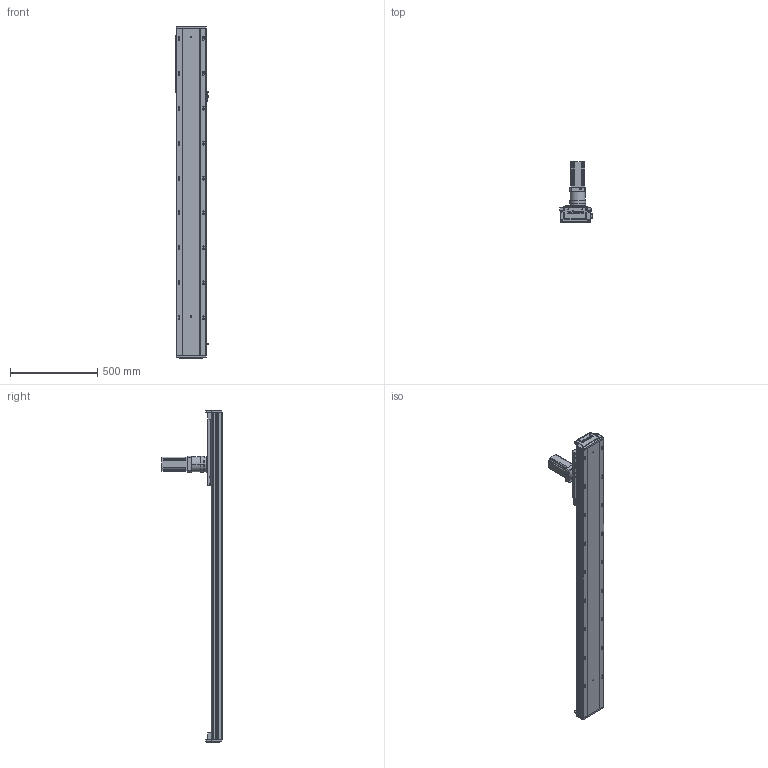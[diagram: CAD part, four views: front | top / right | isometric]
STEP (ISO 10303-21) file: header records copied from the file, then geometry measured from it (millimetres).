
FILE_DESCRIPTION (( 'STEP AP203' ), '1' );
FILE_NAME ('RY170-C-1000-UK.SLDASM_1400.step', '2021-03-03T00:46:36', ( '盈信电脑' ), ( '东莞市道滘镇水果街19号' ), 'SwSTEP 2.0', 'SolidWorks 2012', '' );
FILE_SCHEMA (( 'CONFIG_CONTROL_DESIGN' ));
Length unit declared in the file: millimetre
Products named in the file (13): RY170綴裔啣ㄗ蜊秶ㄘ; 絳寢賑輸EGH20CA; RY170-1000-喘沭耀郪絳寢EGH20CA_1400; RY170-1000齿条模组型材底座_1400; 怢湛750W萇儂ㄗ80遺ㄘ; RY170外置感应片(200共用）; RY170-喘謫萇儂覃誹啣; 覜茼ん672; 左旋斜齿齿轮_M2_22齿_内孔20; RY170-C-1000-UK.SLDASM_1400; RY170-喘沭賑輸; TF080等撰; RY170-喘沭滅袉蝶輸
Assembly tree (22 placements, depth 2):
  RY170-C-1000-UK.SLDASM_1400
    RY170-1000齿条模组型材底座_1400
    絳寢賑輸EGH20CA  x6
    RY170-1000-喘沭耀郪絳寢EGH20CA_1400  x2
    RY170綴裔啣ㄗ蜊秶ㄘ  x2
    覜茼ん672  x3
    RY170外置感应片(200共用）
    RY170-喘謫萇儂覃誹啣
    怢湛750W萇儂ㄗ80遺ㄘ
    RY170-喘沭滅袉蝶輸  x2
    TF080等撰
    左旋斜齿齿轮_M2_22齿_内孔20
    RY170-喘沭賑輸
Bounding box: 188.7 x 343.5 x 1900 mm (x, y, z)
Volume: 11142914.9 mm3; surface area: 2700856.5 mm2
Topology: 24 solids, 24 shells, 4035 faces, 11150 edges, 7171 vertices
Faces by surface type: plane 2013, cylinder 1690, cone 278, bspline 50, torus 4
Entity records: 87516 total; most frequent: CARTESIAN_POINT 19697, ORIENTED_EDGE 14014, DIRECTION 13744, EDGE_CURVE 7007, AXIS2_PLACEMENT_3D 5021, VERTEX_POINT 4561, LINE 3702, VECTOR 3702
